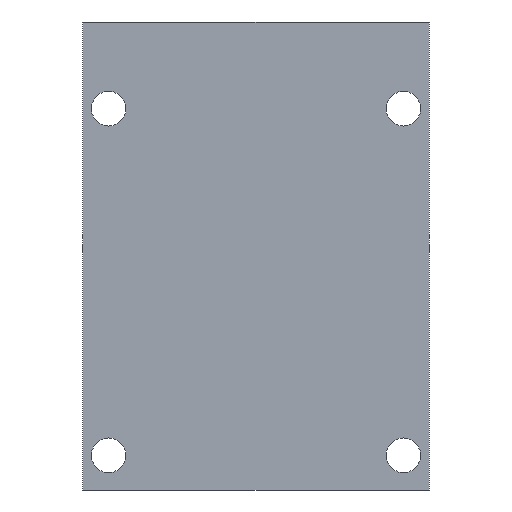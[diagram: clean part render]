
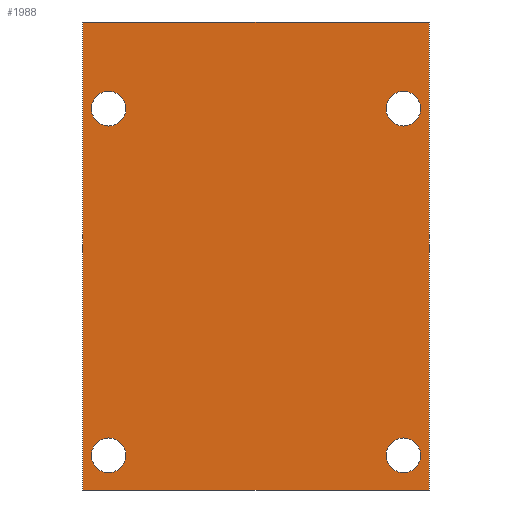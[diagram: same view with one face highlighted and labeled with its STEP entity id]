
A CAD part, front view. The second image highlights one B-rep face of the part: STEP entity #1988.
In plain terms, the highlighted planar face has unit normal (0, -1, 0).
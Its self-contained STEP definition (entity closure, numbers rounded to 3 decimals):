
#1=DIRECTION('',(0.,0.,1.));
#2=VECTOR('',#1,27.);
#3=CARTESIAN_POINT('',(-10.,0.,-108.242));
#4=LINE('',#3,#2);
#5=DIRECTION('',(1.,0.,0.));
#6=VECTOR('',#5,20.);
#7=CARTESIAN_POINT('',(-10.,0.,-81.242));
#8=LINE('',#7,#6);
#9=DIRECTION('',(0.,0.,-1.));
#10=VECTOR('',#9,27.);
#11=CARTESIAN_POINT('',(10.,0.,-81.242));
#12=LINE('',#11,#10);
#13=DIRECTION('',(-1.,0.,0.));
#14=VECTOR('',#13,20.);
#15=CARTESIAN_POINT('',(10.,0.,-108.242));
#16=LINE('',#15,#14);
#17=CARTESIAN_POINT('',(-8.5,0.,-86.242));
#18=DIRECTION('',(0.,1.,0.));
#19=DIRECTION('',(1.,0.,0.));
#20=AXIS2_PLACEMENT_3D('',#17,#18,#19);
#22=CARTESIAN_POINT('',(-8.5,0.,-86.242));
#23=DIRECTION('',(0.,1.,0.));
#24=DIRECTION('',(-1.,0.,0.));
#25=AXIS2_PLACEMENT_3D('',#22,#23,#24);
#27=CARTESIAN_POINT('',(-8.5,0.,-106.242));
#28=DIRECTION('',(0.,1.,0.));
#29=DIRECTION('',(1.,0.,0.));
#30=AXIS2_PLACEMENT_3D('',#27,#28,#29);
#32=CARTESIAN_POINT('',(-8.5,0.,-106.242));
#33=DIRECTION('',(0.,1.,0.));
#34=DIRECTION('',(-1.,0.,0.));
#35=AXIS2_PLACEMENT_3D('',#32,#33,#34);
#37=CARTESIAN_POINT('',(8.5,0.,-86.242));
#38=DIRECTION('',(0.,1.,0.));
#39=DIRECTION('',(1.,0.,0.));
#40=AXIS2_PLACEMENT_3D('',#37,#38,#39);
#42=CARTESIAN_POINT('',(8.5,0.,-86.242));
#43=DIRECTION('',(0.,1.,0.));
#44=DIRECTION('',(-1.,0.,0.));
#45=AXIS2_PLACEMENT_3D('',#42,#43,#44);
#47=CARTESIAN_POINT('',(8.5,0.,-106.242));
#48=DIRECTION('',(0.,1.,0.));
#49=DIRECTION('',(1.,0.,0.));
#50=AXIS2_PLACEMENT_3D('',#47,#48,#49);
#52=CARTESIAN_POINT('',(8.5,0.,-106.242));
#53=DIRECTION('',(0.,1.,0.));
#54=DIRECTION('',(-1.,0.,0.));
#55=AXIS2_PLACEMENT_3D('',#52,#53,#54);
#1477=CARTESIAN_POINT('',(-10.,0.,-108.242));
#1478=CARTESIAN_POINT('',(-10.,0.,-81.242));
#1479=VERTEX_POINT('',#1477);
#1480=VERTEX_POINT('',#1478);
#1481=CARTESIAN_POINT('',(10.,0.,-81.242));
#1482=VERTEX_POINT('',#1481);
#1483=CARTESIAN_POINT('',(10.,0.,-108.242));
#1484=VERTEX_POINT('',#1483);
#1493=CARTESIAN_POINT('',(-7.5,0.,-86.242));
#1494=CARTESIAN_POINT('',(-9.5,0.,-86.242));
#1495=VERTEX_POINT('',#1493);
#1496=VERTEX_POINT('',#1494);
#1497=CARTESIAN_POINT('',(-7.5,0.,-106.242));
#1498=CARTESIAN_POINT('',(-9.5,0.,-106.242));
#1499=VERTEX_POINT('',#1497);
#1500=VERTEX_POINT('',#1498);
#1501=CARTESIAN_POINT('',(9.5,0.,-86.242));
#1502=CARTESIAN_POINT('',(7.5,0.,-86.242));
#1503=VERTEX_POINT('',#1501);
#1504=VERTEX_POINT('',#1502);
#1505=CARTESIAN_POINT('',(9.5,0.,-106.242));
#1506=CARTESIAN_POINT('',(7.5,0.,-106.242));
#1507=VERTEX_POINT('',#1505);
#1508=VERTEX_POINT('',#1506);
#1949=CARTESIAN_POINT('',(0.,0.,0.));
#1950=DIRECTION('',(0.,1.,0.));
#1951=DIRECTION('',(1.,0.,0.));
#1952=AXIS2_PLACEMENT_3D('',#1949,#1950,#1951);
#1953=PLANE('',#1952);
#1955=ORIENTED_EDGE('',*,*,#1954,.T.);
#1957=ORIENTED_EDGE('',*,*,#1956,.T.);
#1959=ORIENTED_EDGE('',*,*,#1958,.T.);
#1961=ORIENTED_EDGE('',*,*,#1960,.T.);
#1962=EDGE_LOOP('',(#1955,#1957,#1959,#1961));
#1963=FACE_OUTER_BOUND('',#1962,.F.);
#1965=ORIENTED_EDGE('',*,*,#1964,.F.);
#1967=ORIENTED_EDGE('',*,*,#1966,.F.);
#1968=EDGE_LOOP('',(#1965,#1967));
#1969=FACE_BOUND('',#1968,.F.);
#1971=ORIENTED_EDGE('',*,*,#1970,.F.);
#1973=ORIENTED_EDGE('',*,*,#1972,.F.);
#1974=EDGE_LOOP('',(#1971,#1973));
#1975=FACE_BOUND('',#1974,.F.);
#1977=ORIENTED_EDGE('',*,*,#1976,.F.);
#1979=ORIENTED_EDGE('',*,*,#1978,.F.);
#1980=EDGE_LOOP('',(#1977,#1979));
#1981=FACE_BOUND('',#1980,.F.);
#1983=ORIENTED_EDGE('',*,*,#1982,.F.);
#1985=ORIENTED_EDGE('',*,*,#1984,.F.);
#1986=EDGE_LOOP('',(#1983,#1985));
#1987=FACE_BOUND('',#1986,.F.);
#1988=ADVANCED_FACE('',(#1963,#1969,#1975,#1981,#1987),#1953,.F.);
#21=CIRCLE('',#20,1.);
#26=CIRCLE('',#25,1.);
#31=CIRCLE('',#30,1.);
#36=CIRCLE('',#35,1.);
#41=CIRCLE('',#40,1.);
#46=CIRCLE('',#45,1.);
#51=CIRCLE('',#50,1.);
#56=CIRCLE('',#55,1.);
#1954=EDGE_CURVE('',#1479,#1480,#4,.T.);
#1956=EDGE_CURVE('',#1480,#1482,#8,.T.);
#1958=EDGE_CURVE('',#1482,#1484,#12,.T.);
#1960=EDGE_CURVE('',#1484,#1479,#16,.T.);
#1964=EDGE_CURVE('',#1495,#1496,#21,.T.);
#1966=EDGE_CURVE('',#1496,#1495,#26,.T.);
#1970=EDGE_CURVE('',#1499,#1500,#31,.T.);
#1972=EDGE_CURVE('',#1500,#1499,#36,.T.);
#1976=EDGE_CURVE('',#1503,#1504,#41,.T.);
#1978=EDGE_CURVE('',#1504,#1503,#46,.T.);
#1982=EDGE_CURVE('',#1507,#1508,#51,.T.);
#1984=EDGE_CURVE('',#1508,#1507,#56,.T.);
